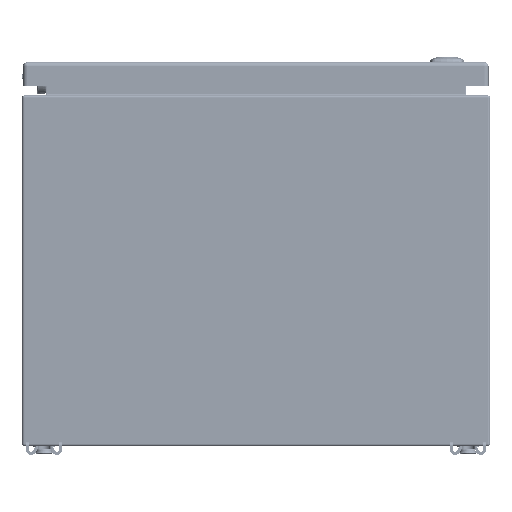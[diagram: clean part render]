
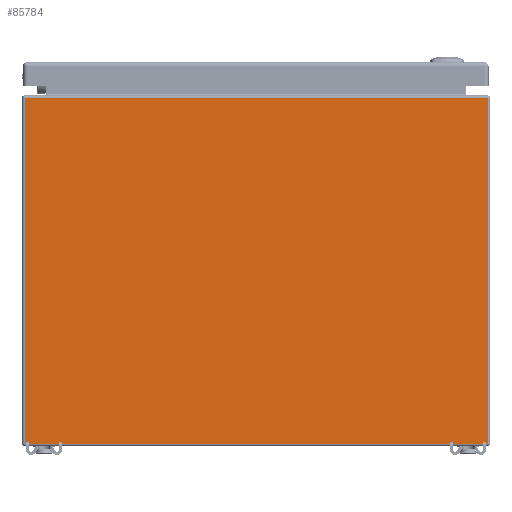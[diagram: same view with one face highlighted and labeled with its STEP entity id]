
A CAD part, front view. The second image highlights one B-rep face of the part: STEP entity #85784.
In plain terms, the highlighted planar face has unit normal (0, -1, 0).
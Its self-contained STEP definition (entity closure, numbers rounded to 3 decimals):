
#11836=FACE_OUTER_BOUND('',#17061,.T.);
#17061=EDGE_LOOP('',(#57140,#57141,#57142,#57143));
#22651=LINE('',#121305,#28690);
#22658=LINE('',#121320,#28697);
#22660=LINE('',#121327,#28699);
#22662=LINE('',#121336,#28701);
#28690=VECTOR('',#99905,0.394);
#28697=VECTOR('',#99918,0.394);
#28699=VECTOR('',#99926,0.394);
#28701=VECTOR('',#99938,0.394);
#34724=VERTEX_POINT('',#121275);
#34731=VERTEX_POINT('',#121301);
#34736=VERTEX_POINT('',#121319);
#34738=VERTEX_POINT('',#121325);
#43410=EDGE_CURVE('',#34724,#34731,#22651,.T.);
#43417=EDGE_CURVE('',#34731,#34736,#22658,.T.);
#43421=EDGE_CURVE('',#34738,#34724,#22660,.T.);
#43426=EDGE_CURVE('',#34738,#34736,#22662,.T.);
#57140=ORIENTED_EDGE('',*,*,#43410,.F.);
#57141=ORIENTED_EDGE('',*,*,#43421,.F.);
#57142=ORIENTED_EDGE('',*,*,#43426,.T.);
#57143=ORIENTED_EDGE('',*,*,#43417,.F.);
#83780=PLANE('',#92039);
#85784=ADVANCED_FACE('',(#11836),#83780,.F.);
#92039=AXIS2_PLACEMENT_3D('',#121347,#99952,#99953);
#99905=DIRECTION('',(1.,0.,0.));
#99918=DIRECTION('',(0.,0.,-1.));
#99926=DIRECTION('',(0.,0.,1.));
#99938=DIRECTION('',(1.,0.,0.));
#99952=DIRECTION('center_axis',(0.,1.,0.));
#99953=DIRECTION('ref_axis',(0.,0.,1.));
#121275=CARTESIAN_POINT('',(-7.916,-10.,11.916));
#121301=CARTESIAN_POINT('',(7.916,-10.,11.916));
#121305=CARTESIAN_POINT('',(3.979,-10.,11.916));
#121319=CARTESIAN_POINT('',(7.916,-10.,0.084));
#121320=CARTESIAN_POINT('',(7.916,-10.,6.));
#121325=CARTESIAN_POINT('',(-7.916,-10.,0.084));
#121327=CARTESIAN_POINT('',(-7.916,-10.,6.));
#121336=CARTESIAN_POINT('',(-3.958,-10.,0.084));
#121347=CARTESIAN_POINT('Origin',(0.,-10.,6.));
